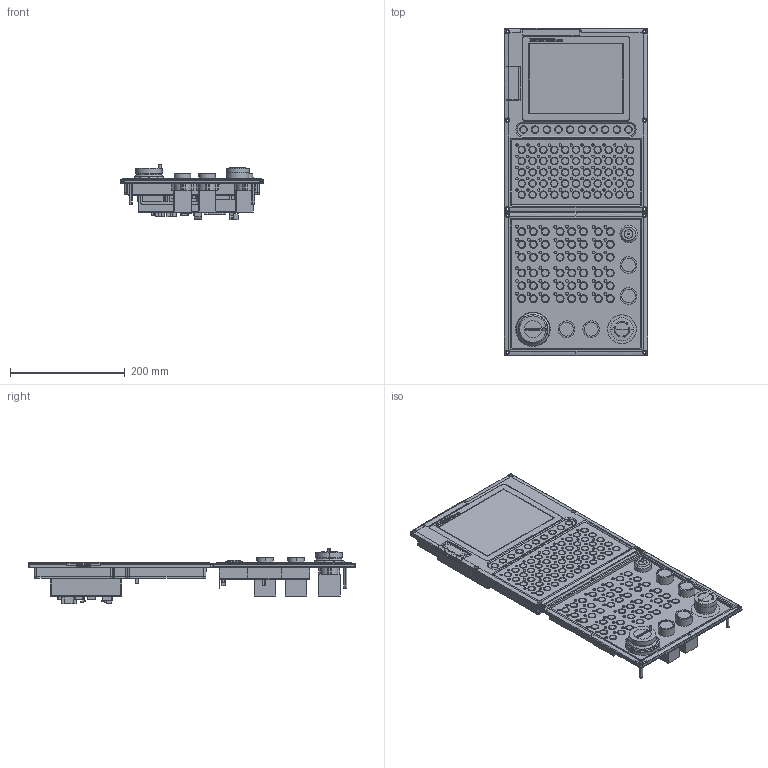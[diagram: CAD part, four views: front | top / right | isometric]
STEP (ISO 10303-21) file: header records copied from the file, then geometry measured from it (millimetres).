
FILE_DESCRIPTION (( 'STEP AP214' ), '1' );
FILE_NAME ('B-8车床立式+辅助板开窗尺寸.STEP', '2022-12-27T11:00:15', ( 'admin' ), ( '' ), 'SwSTEP 2.0', 'SolidWorks 2018', '' );
FILE_SCHEMA (( 'AUTOMOTIVE_DESIGN' ));
Products named in the file (1): B-8车床立式+辅助板开窗尺寸
Bounding box: 250 x 570 x 96.5 mm (x, y, z)
Volume: 3452622.7 mm3; surface area: 583399.2 mm2
Topology: 2 solids, 89 shells, 4514 faces, 11564 edges, 7717 vertices
Faces by surface type: plane 2719, cylinder 1339, bspline 263, cone 176, sphere 9, torus 8
Entity records: 150451 total; most frequent: CARTESIAN_POINT 40409, ORIENTED_EDGE 23116, DIRECTION 21925, EDGE_CURVE 11558, VERTEX_POINT 7717, AXIS2_PLACEMENT_3D 7310, LINE 7305, VECTOR 7305
